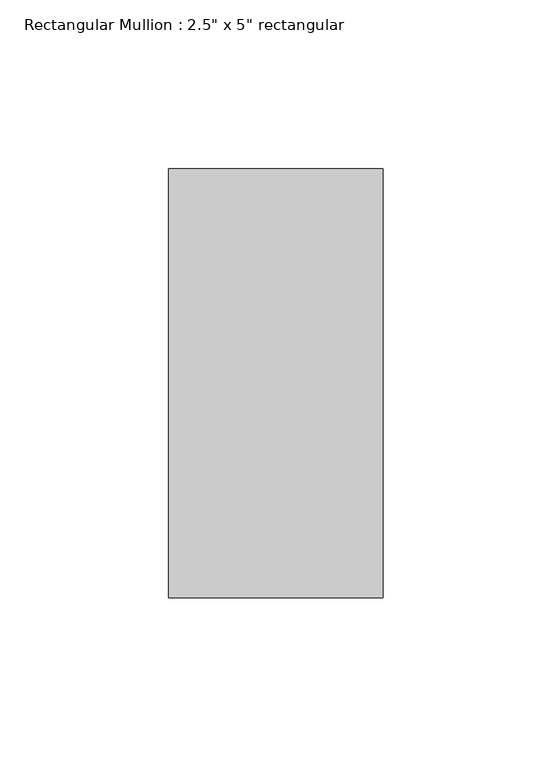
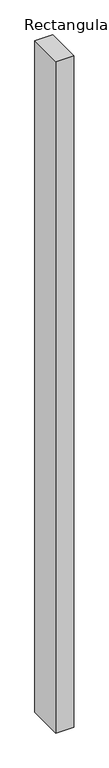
"""IFC4 building model written with IfcOpenShell, lengths in millimetres: member geometry."""

import ifcopenshell
import ifcopenshell.guid

model = None  # the IFC model being written
_history = None  # IfcOwnerHistory: only IFC2X3 demands one
_inside = {}  # id of a spatial element -> (the spatial element, [elements in it])
_under = {}  # id of a project, library or spatial element -> (it, [spatial elements below it])
_declared = {}  # id of a project -> (the project, [libraries it declares])
_typed = {}  # id of a type object -> (the type object, [elements of that type])
_made_of = {}  # id of a material, layer set ... -> (it, [elements and type objects made of it])


def new_model(schema):
    """Start an empty IFC model of exactly this schema.

    Asked for "IFC4X3", IfcOpenShell would pick the latest addendum, in which some entities
    have other attributes; the version numbers below select the first issue.
    IFC2X3 requires an IfcOwnerHistory on every rooted entity: one is made here for all.
    """
    global model, _history
    if schema == "IFC4X3":
        model = ifcopenshell.file(schema_version=(4, 3, 0, 0))
    else:
        model = ifcopenshell.file(schema=schema)
    _inside.clear()
    _under.clear()
    _declared.clear()
    _typed.clear()
    _made_of.clear()
    _history = None
    if model.schema == "IFC2X3":
        org = make("IfcOrganization", Name="unknown")
        user = make(
            "IfcPersonAndOrganization",
            ThePerson=make("IfcPerson", FamilyName="unknown"),
            TheOrganization=org,
        )
        app = make(
            "IfcApplication",
            ApplicationDeveloper=org,
            Version="unknown",
            ApplicationFullName="unknown",
            ApplicationIdentifier="unknown",
        )
        _history = make(
            "IfcOwnerHistory",
            OwningUser=user,
            OwningApplication=app,
            ChangeAction="ADDED",
            CreationDate=0,
        )
    return model


def make(cls, **values):
    """One entity of the class cls with the attributes given. An attribute that is None is left unset."""
    return model.create_entity(
        cls, **{name: value for name, value in values.items() if value is not None}
    )


def rooted(cls, **values):
    """An entity with a GlobalId (a new one), such as an element, a storey or a relation."""
    return make(cls, GlobalId=ifcopenshell.guid.new(), OwnerHistory=_history, **values)


def si_unit(unit_type, name, prefix=None):
    """IfcSIUnit, for example si_unit("LENGTHUNIT", "METRE", prefix="MILLI")."""
    return make("IfcSIUnit", UnitType=unit_type, Prefix=prefix, Name=name)


def assignment(units):
    """IfcUnitAssignment: the units of a project."""
    return None if units is None else make("IfcUnitAssignment", Units=units)


def point(xyz):
    """IfcCartesianPoint."""
    return None if xyz is None else make("IfcCartesianPoint", Coordinates=xyz)


def direction(xyz):
    """IfcDirection."""
    return None if xyz is None else make("IfcDirection", DirectionRatios=xyz)


def frame(location, z_axis=None, x_axis=None):
    """IfcAxis2Placement3D, a coordinate frame: its origin and axes. An axis left out is left unset."""
    return make(
        "IfcAxis2Placement3D",
        Location=point(location),
        Axis=direction(z_axis),
        RefDirection=direction(x_axis),
    )


def origin():
    """The frame at (0, 0, 0) with its axes left unset."""
    return frame((0.0, 0.0, 0.0))


def place(relative_to, where):
    """IfcLocalPlacement: puts the frame where relative to a parent placement (None: the world)."""
    return make(
        "IfcLocalPlacement", PlacementRelTo=relative_to, RelativePlacement=where
    )


def context(
    kind, dimensions, precision=None, world=None, true_north=None, identifier=None
):
    """IfcGeometricRepresentationContext, for example the 3D "Model" context."""
    return make(
        "IfcGeometricRepresentationContext",
        ContextIdentifier=identifier,
        ContextType=kind,
        CoordinateSpaceDimension=dimensions,
        Precision=precision,
        WorldCoordinateSystem=world,
        TrueNorth=true_north,
    )


def project(units=None, contexts=None):
    """IfcProject with its units and contexts."""
    return rooted(
        "IfcProject",
        Name="project",
        RepresentationContexts=contexts,
        UnitsInContext=assignment(units),
    )


def spatial(cls, under=None, at=None, **own):
    """A site, building, storey or space (cls), placed at a placement, below another one or the project."""
    s = rooted(cls, ObjectPlacement=at, **own)
    if under is not None:
        _under.setdefault(under.id(), (under, []))[1].append(s)
    return s


def polyline(points):
    """IfcPolyline through the points."""
    return make("IfcPolyline", Points=[point(p) for p in points])


def outline(outer, holes=None, kind="AREA"):
    """IfcArbitraryClosedProfileDef: a profile drawn as a closed curve; with holes, ...WithVoids."""
    if holes is None:
        return make("IfcArbitraryClosedProfileDef", ProfileType=kind, OuterCurve=outer)
    return make(
        "IfcArbitraryProfileDefWithVoids",
        ProfileType=kind,
        OuterCurve=outer,
        InnerCurves=holes,
    )


def extrude(swept, where, along, depth):
    """IfcExtrudedAreaSolid: the profile swept, set in the frame where, extruded along a direction by depth."""
    return make(
        "IfcExtrudedAreaSolid",
        SweptArea=swept,
        Position=where,
        ExtrudedDirection=direction(along),
        Depth=depth,
    )


def shape(context_of_items, identifier, shape_type, items):
    """IfcShapeRepresentation: the items that make up one representation, for example the "Body"."""
    return make(
        "IfcShapeRepresentation",
        ContextOfItems=context_of_items,
        RepresentationIdentifier=identifier,
        RepresentationType=shape_type,
        Items=items,
    )


def source(mapping_origin, context_of_items, identifier, shape_type, items):
    """IfcRepresentationMap: a shape defined once, which mapped items show again and again."""
    return make(
        "IfcRepresentationMap",
        MappingOrigin=mapping_origin,
        MappedRepresentation=shape(context_of_items, identifier, shape_type, items),
    )


def transform(
    local_origin,
    x_axis=None,
    y_axis=None,
    z_axis=None,
    scale=None,
    scale2=None,
    scale3=None,
    uniform=True,
):
    """IfcCartesianTransformationOperator3D, or its non-uniform kind. x_axis, y_axis, z_axis: its Axis1, 2, 3."""
    if uniform:
        return make(
            "IfcCartesianTransformationOperator3D",
            Axis1=direction(x_axis),
            Axis2=direction(y_axis),
            LocalOrigin=point(local_origin),
            Scale=scale,
            Axis3=direction(z_axis),
        )
    return make(
        "IfcCartesianTransformationOperator3DnonUniform",
        Axis1=direction(x_axis),
        Axis2=direction(y_axis),
        LocalOrigin=point(local_origin),
        Scale=scale,
        Axis3=direction(z_axis),
        Scale2=scale2,
        Scale3=scale3,
    )


def mapped(mapping_source, mapping_target):
    """IfcMappedItem: shows the shape of a source again, moved by a transform."""
    return make(
        "IfcMappedItem", MappingSource=mapping_source, MappingTarget=mapping_target
    )


def made_of(thing, what):
    """Note that an element or type object is made of a material, layer set ...; save() writes the relation."""
    if what is not None:
        _made_of.setdefault(what.id(), (what, []))[1].append(thing)
    return thing


def element(
    cls,
    number,
    at=None,
    inside=None,
    cuts=None,
    type_object=None,
    material=None,
    context=None,
    identifier="Body",
    shape_type=None,
    held_by="IfcProductDefinitionShape",
    body=None,
    shapes=None,
    **own,
):
    """One element of the class cls, such as IfcWall. Its Tag is "e" and its number.

    at: its placement. inside: the storey or other place that contains it. cuts: it is an
    opening in that element (IfcRelVoidsElement). A single representation is given by context,
    identifier, shape_type and body (its items); several are given by shapes. held_by: the class
    of the entity that holds the representations. save() writes the other relations.
    """
    e = rooted(cls, Tag="e%d" % number, ObjectPlacement=at, **own)
    if body is not None:
        shapes = [shape(context, identifier, shape_type, body)]
    if shapes is not None:
        e.Representation = make(held_by, Representations=shapes)
    if inside is not None:
        _inside.setdefault(inside.id(), (inside, []))[1].append(e)
    if cuts is not None:
        rooted(
            "IfcRelVoidsElement", RelatingBuildingElement=cuts, RelatedOpeningElement=e
        )
    if type_object is not None:
        _typed.setdefault(type_object.id(), (type_object, []))[1].append(e)
    return made_of(e, material)


def aggregate(whole, parts):
    """IfcRelAggregates: a whole, such as a stair, and the parts it consists of."""
    return rooted("IfcRelAggregates", RelatingObject=whole, RelatedObjects=parts)


def save(model, path):
    """Write the relations noted so far, then the file.

    IfcRelAggregates (storeys below a building ...), IfcRelContainedInSpatialStructure (elements
    in a storey), IfcRelDefinesByType, IfcRelAssociatesMaterial and IfcRelDeclares: one each for
    every whole, place, type object, material and project.
    """
    for whole, parts in _under.values():
        aggregate(whole, parts)
    for where, things in _inside.values():
        rooted(
            "IfcRelContainedInSpatialStructure",
            RelatedElements=things,
            RelatingStructure=where,
        )
    for kind, things in _typed.values():
        rooted("IfcRelDefinesByType", RelatedObjects=things, RelatingType=kind)
    for what, things in _made_of.values():
        rooted("IfcRelAssociatesMaterial", RelatedObjects=things, RelatingMaterial=what)
    for by, libraries in _declared.values():
        rooted("IfcRelDeclares", RelatingContext=by, RelatedDefinitions=libraries)
    model.write(path)


def member_11ed7e2d(model_context):
    return source(origin(), model_context, "Body", "SweptSolid", [
        extrude(outline(polyline([(0.0, 63.5), (0.0, -63.5), (-63.5, -63.5), (-63.5, 63.5), (0.0, 63.5)])), frame((0.0, 0.0, -2492.375), z_axis=(0.0, 0.0, 1.0), x_axis=(1.0, 0.0, 0.0)), (0.0, 0.0, 1.0), 2492.375),
    ])


if __name__ == "__main__":
    model = new_model("IFC4")
    model_context = context("Model", 3, world=origin())
    ifc_project = project(units=[si_unit("LENGTHUNIT", "METRE", prefix="MILLI")], contexts=[model_context])
    site = spatial("IfcSite", under=ifc_project)
    building = spatial("IfcBuilding", under=site)
    placement = place(None, origin())
    member_shape = member_11ed7e2d(model_context)
    element("IfcMember", 1, ObjectType="Rectangular Mullion : 2.5\" x 5\" rectangular", at=placement, inside=building, context=model_context, shape_type="MappedRepresentation", body=[
        mapped(member_shape, transform((0.0, 0.0, 0.0), x_axis=(1.0, 0.0, 0.0), y_axis=(0.0, 1.0, 0.0), z_axis=(0.0, 0.0, 1.0))),
    ])
    save(model, "model.ifc")
